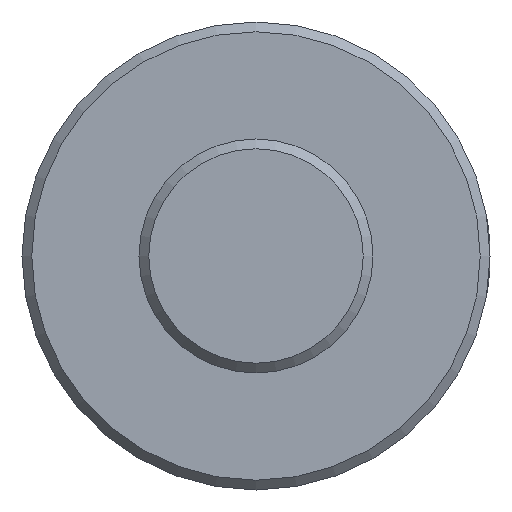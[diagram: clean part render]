
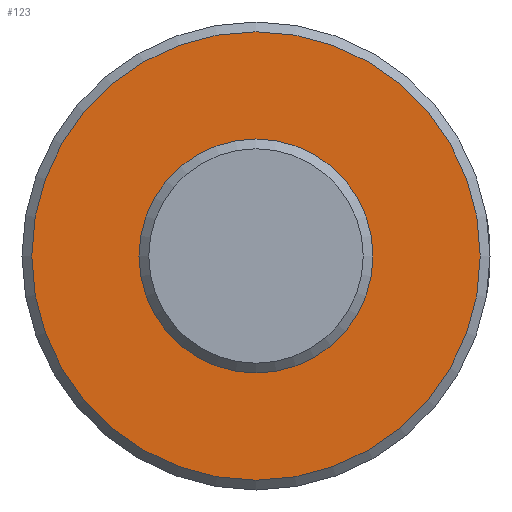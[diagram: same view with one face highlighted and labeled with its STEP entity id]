
A CAD part, left-side view. The second image highlights one B-rep face of the part: STEP entity #123.
In plain terms, the highlighted planar face has unit normal (-1, 0, 0).
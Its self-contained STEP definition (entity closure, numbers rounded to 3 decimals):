
#114=PLANE('',#351);
#123=ADVANCED_FACE('',(#181,#182),#114,.F.);
#181=FACE_BOUND('',#202,.T.);
#182=FACE_BOUND('',#203,.T.);
#202=EDGE_LOOP('',(#237));
#203=EDGE_LOOP('',(#238));
#237=ORIENTED_EDGE('',*,*,#315,.T.);
#238=ORIENTED_EDGE('',*,*,#312,.T.);
#290=VERTEX_POINT('',#580);
#293=VERTEX_POINT('',#644);
#312=EDGE_CURVE('',#290,#290,#334,.T.);
#315=EDGE_CURVE('',#293,#293,#335,.T.);
#334=CIRCLE('',#348,6.);
#335=CIRCLE('',#350,11.5);
#348=AXIS2_PLACEMENT_3D('',#579,#384,#385);
#350=AXIS2_PLACEMENT_3D('',#643,#388,#389);
#351=AXIS2_PLACEMENT_3D('',#645,#390,#391);
#384=DIRECTION('',(1.,0.,0.));
#385=DIRECTION('',(0.,0.,1.));
#388=DIRECTION('',(-1.,0.,0.));
#389=DIRECTION('',(0.,0.,-1.));
#390=DIRECTION('',(1.,0.,0.));
#391=DIRECTION('',(0.,0.,-1.));
#579=CARTESIAN_POINT('',(-57.5,0.,0.));
#580=CARTESIAN_POINT('',(-57.5,0.,6.));
#643=CARTESIAN_POINT('',(-57.5,0.,0.));
#644=CARTESIAN_POINT('',(-57.5,0.,-11.5));
#645=CARTESIAN_POINT('',(-57.5,0.,0.));
